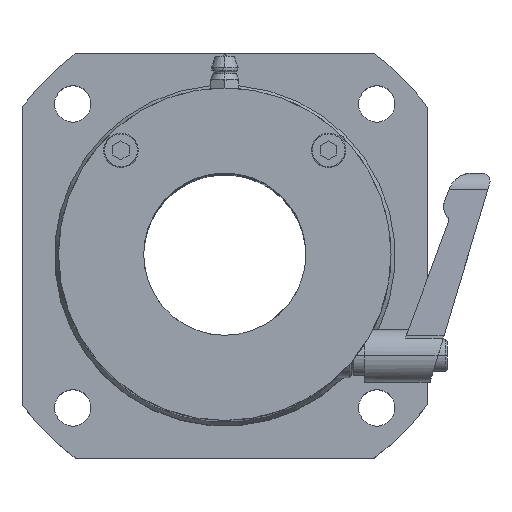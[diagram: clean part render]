
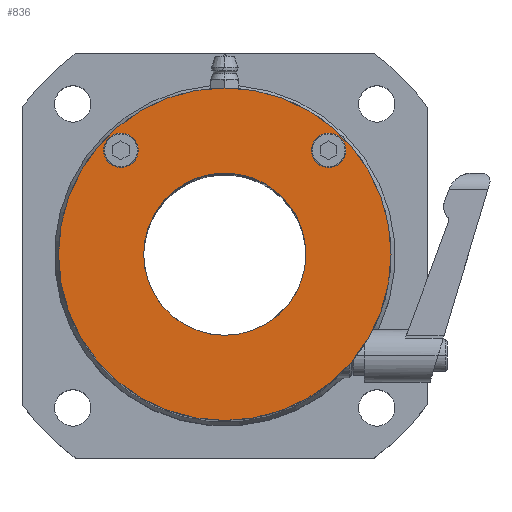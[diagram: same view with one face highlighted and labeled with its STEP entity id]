
A CAD part, top view. The second image highlights one B-rep face of the part: STEP entity #836.
In plain terms, the highlighted planar face has unit normal (0, 0, 1).
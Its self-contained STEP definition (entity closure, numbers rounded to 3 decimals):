
#42 = CARTESIAN_POINT ( 'NONE',  ( 20.222, -3.051, 92. ) ) ;
#87 = VERTEX_POINT ( 'NONE', #4376 ) ;
#92 = CIRCLE ( 'NONE', #802, 41. ) ;
#144 = CARTESIAN_POINT ( 'NONE',  ( 0.222, -3.051, 92. ) ) ;
#151 = EDGE_CURVE ( 'NONE', #9808, #4667, #1956, .T. ) ;
#802 = AXIS2_PLACEMENT_3D ( 'NONE', #8015, #2832, #2759 ) ;
#836 = ADVANCED_FACE ( 'NONE', ( #5847, #3196, #7549, #5970 ), #4268, .T. ) ;
#1021 = EDGE_CURVE ( 'NONE', #87, #7482, #6713, .T. ) ;
#1249 = CARTESIAN_POINT ( 'NONE',  ( -29.628, 22.549, 92. ) ) ;
#1384 = AXIS2_PLACEMENT_3D ( 'NONE', #5773, #4074, #1462 ) ;
#1417 = DIRECTION ( 'NONE',  ( 0., 0., 1. ) ) ;
#1462 = DIRECTION ( 'NONE',  ( 1., 0., 0. ) ) ;
#1557 = EDGE_LOOP ( 'NONE', ( #10421, #7762 ) ) ;
#1618 = AXIS2_PLACEMENT_3D ( 'NONE', #5079, #3468, #8487 ) ;
#1956 = CIRCLE ( 'NONE', #8254, 41. ) ;
#1959 = AXIS2_PLACEMENT_3D ( 'NONE', #7469, #1417, #8185 ) ;
#1970 = VERTEX_POINT ( 'NONE', #1249 ) ;
#2531 = CIRCLE ( 'NONE', #1618, 4.25 ) ;
#2679 = EDGE_CURVE ( 'NONE', #4667, #9808, #92, .T. ) ;
#2759 = DIRECTION ( 'NONE',  ( 1., 0., 0. ) ) ;
#2832 = DIRECTION ( 'NONE',  ( 0., 0., 1. ) ) ;
#2943 = DIRECTION ( 'NONE',  ( 1., 0., 0. ) ) ;
#3008 = DIRECTION ( 'NONE',  ( 0., 0., 1. ) ) ;
#3103 = AXIS2_PLACEMENT_3D ( 'NONE', #5458, #9001, #9339 ) ;
#3196 = FACE_BOUND ( 'NONE', #8947, .T. ) ;
#3413 = DIRECTION ( 'NONE',  ( 0., 0., 1. ) ) ;
#3468 = DIRECTION ( 'NONE',  ( 0., 0., 1. ) ) ;
#3639 = DIRECTION ( 'NONE',  ( 1., 0., 0. ) ) ;
#3814 = CARTESIAN_POINT ( 'NONE',  ( -40.778, -3.051, 92. ) ) ;
#4074 = DIRECTION ( 'NONE',  ( 0., 0., 1. ) ) ;
#4132 = AXIS2_PLACEMENT_3D ( 'NONE', #4521, #4396, #5302 ) ;
#4268 = PLANE ( 'NONE',  #9423 ) ;
#4287 = VERTEX_POINT ( 'NONE', #42 ) ;
#4376 = CARTESIAN_POINT ( 'NONE',  ( 30.072, 22.549, 92. ) ) ;
#4396 = DIRECTION ( 'NONE',  ( 0., 0., 1. ) ) ;
#4521 = CARTESIAN_POINT ( 'NONE',  ( -25.378, 22.549, 92. ) ) ;
#4564 = EDGE_CURVE ( 'NONE', #1970, #10085, #8981, .T. ) ;
#4599 = DIRECTION ( 'NONE',  ( 0., 0., 1. ) ) ;
#4667 = VERTEX_POINT ( 'NONE', #4723 ) ;
#4723 = CARTESIAN_POINT ( 'NONE',  ( 41.222, -3.051, 92. ) ) ;
#5079 = CARTESIAN_POINT ( 'NONE',  ( -25.378, 22.549, 92. ) ) ;
#5302 = DIRECTION ( 'NONE',  ( 1., 0., 0. ) ) ;
#5405 = EDGE_LOOP ( 'NONE', ( #10710, #10039 ) ) ;
#5458 = CARTESIAN_POINT ( 'NONE',  ( 25.822, 22.549, 92. ) ) ;
#5773 = CARTESIAN_POINT ( 'NONE',  ( 25.822, 22.549, 92. ) ) ;
#5793 = CARTESIAN_POINT ( 'NONE',  ( -19.778, -3.051, 92. ) ) ;
#5847 = FACE_BOUND ( 'NONE', #5405, .T. ) ;
#5970 = FACE_BOUND ( 'NONE', #8542, .T. ) ;
#6115 = CARTESIAN_POINT ( 'NONE',  ( -21.128, 22.549, 92. ) ) ;
#6266 = CIRCLE ( 'NONE', #1384, 4.25 ) ;
#6713 = CIRCLE ( 'NONE', #3103, 4.25 ) ;
#7099 = ORIENTED_EDGE ( 'NONE', *, *, #7234, .F. ) ;
#7234 = EDGE_CURVE ( 'NONE', #10085, #1970, #2531, .T. ) ;
#7318 = CARTESIAN_POINT ( 'NONE',  ( 21.572, 22.549, 92. ) ) ;
#7469 = CARTESIAN_POINT ( 'NONE',  ( 0.222, -3.051, 92. ) ) ;
#7482 = VERTEX_POINT ( 'NONE', #7318 ) ;
#7549 = FACE_OUTER_BOUND ( 'NONE', #1557, .T. ) ;
#7640 = DIRECTION ( 'NONE',  ( 1., 0., 0. ) ) ;
#7762 = ORIENTED_EDGE ( 'NONE', *, *, #2679, .T. ) ;
#8015 = CARTESIAN_POINT ( 'NONE',  ( 0.222, -3.051, 92. ) ) ;
#8104 = ORIENTED_EDGE ( 'NONE', *, *, #8686, .F. ) ;
#8185 = DIRECTION ( 'NONE',  ( 1., 0., 0. ) ) ;
#8254 = AXIS2_PLACEMENT_3D ( 'NONE', #144, #4599, #3639 ) ;
#8350 = VERTEX_POINT ( 'NONE', #5793 ) ;
#8487 = DIRECTION ( 'NONE',  ( 1., 0., 0. ) ) ;
#8542 = EDGE_LOOP ( 'NONE', ( #9236, #8104 ) ) ;
#8686 = EDGE_CURVE ( 'NONE', #4287, #8350, #9851, .T. ) ;
#8947 = EDGE_LOOP ( 'NONE', ( #9361, #7099 ) ) ;
#8981 = CIRCLE ( 'NONE', #4132, 4.25 ) ;
#8993 = CARTESIAN_POINT ( 'NONE',  ( 0.222, -3.051, 92. ) ) ;
#9001 = DIRECTION ( 'NONE',  ( 0., 0., 1. ) ) ;
#9236 = ORIENTED_EDGE ( 'NONE', *, *, #10655, .F. ) ;
#9339 = DIRECTION ( 'NONE',  ( 1., 0., 0. ) ) ;
#9361 = ORIENTED_EDGE ( 'NONE', *, *, #4564, .F. ) ;
#9423 = AXIS2_PLACEMENT_3D ( 'NONE', #10188, #3413, #7640 ) ;
#9485 = AXIS2_PLACEMENT_3D ( 'NONE', #8993, #3008, #2943 ) ;
#9808 = VERTEX_POINT ( 'NONE', #3814 ) ;
#9851 = CIRCLE ( 'NONE', #9485, 20. ) ;
#10039 = ORIENTED_EDGE ( 'NONE', *, *, #1021, .F. ) ;
#10085 = VERTEX_POINT ( 'NONE', #6115 ) ;
#10188 = CARTESIAN_POINT ( 'NONE',  ( 0.222, -3.051, 92. ) ) ;
#10421 = ORIENTED_EDGE ( 'NONE', *, *, #151, .T. ) ;
#10611 = CIRCLE ( 'NONE', #1959, 20. ) ;
#10655 = EDGE_CURVE ( 'NONE', #8350, #4287, #10611, .T. ) ;
#10710 = ORIENTED_EDGE ( 'NONE', *, *, #11054, .F. ) ;
#11054 = EDGE_CURVE ( 'NONE', #7482, #87, #6266, .T. ) ;
